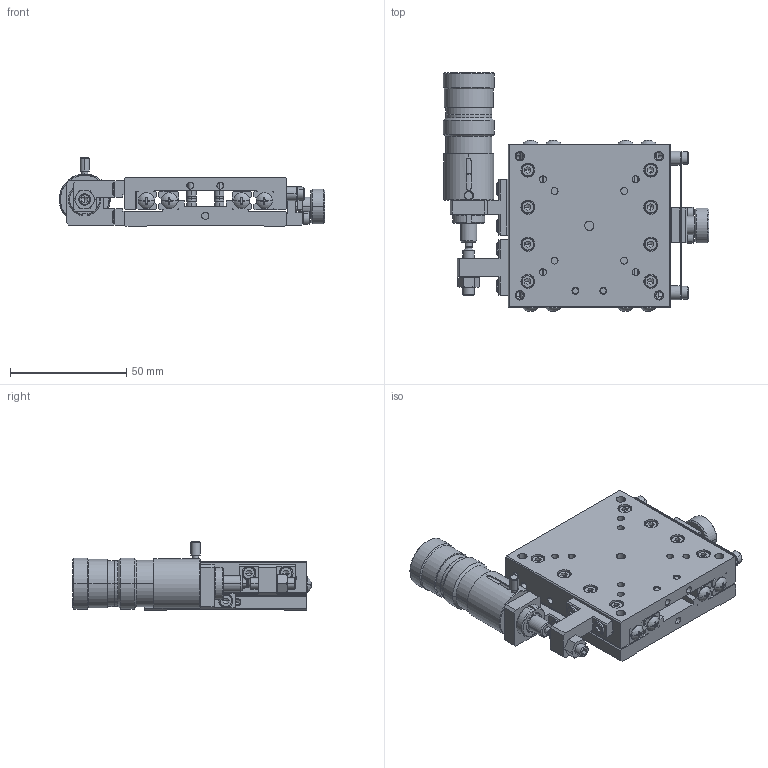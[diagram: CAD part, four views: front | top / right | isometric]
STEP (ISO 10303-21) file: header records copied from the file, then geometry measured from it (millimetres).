
FILE_DESCRIPTION (( 'STEP AP214' ), '1' );
FILE_NAME ('XM07A-S3-R-CL.STEP', '2009-05-11T05:39:07', ( ' ' ), ( ' ' ), 'SwSTEP 2.0', 'SolidWorks 2008', '' );
FILE_SCHEMA (( 'AUTOMOTIVE_DESIGN' ));
Length unit declared in the file: millimetre
Products named in the file (3): 001490-1023(3D)-10; 001490-1011(3D)-10; XM07A-S3-R-CL
Assembly tree (2 placements, depth 2):
  XM07A-S3-R-CL
    001490-1023(3D)-10
    001490-1011(3D)-10
Bounding box: 114.5 x 102.87 x 29.5 mm (x, y, z)
Volume: 109666.7 mm3; surface area: 52925.4 mm2
Topology: 2 solids, 43 shells, 1907 faces, 4550 edges, 2724 vertices
Faces by surface type: plane 887, cylinder 584, cone 402, sphere 18, torus 16
Entity records: 55386 total; most frequent: CARTESIAN_POINT 10483, DIRECTION 9945, ORIENTED_EDGE 8912, EDGE_CURVE 4456, AXIS2_PLACEMENT_3D 3796, VERTEX_POINT 2724, VECTOR 2353, LINE 2353
